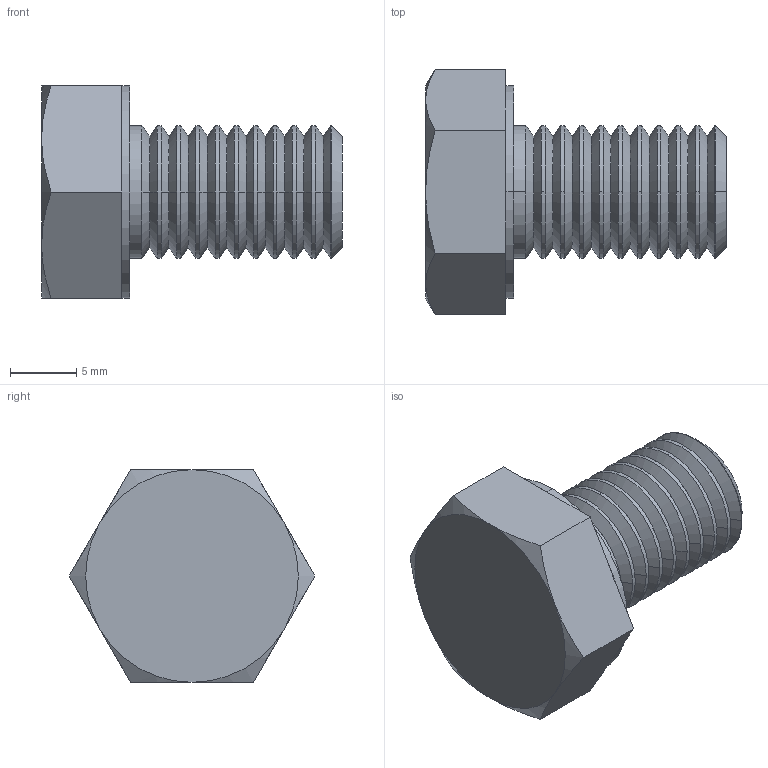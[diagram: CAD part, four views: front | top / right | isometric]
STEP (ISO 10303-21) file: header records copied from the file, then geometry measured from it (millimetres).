
FILE_DESCRIPTION (( 'STEP AP203' ), '1' );
FILE_NAME ('LED-10W-6R-HT-111 Step.STEP', '2013-10-24T16:17:22', ( 'Rob' ), ( '' ), 'SwSTEP 2.0', 'SolidWorks 2013', '' );
FILE_SCHEMA (( 'CONFIG_CONTROL_DESIGN' ));
Length unit declared in the file: millimetre
Products named in the file (1): LED-10W-6R-HT-111 Step
Bounding box: 22.63 x 18.48 x 16 mm (x, y, z)
Volume: 2557 mm3; surface area: 1502.2 mm2
Topology: 1 solids, 1 shells, 87 faces, 216 edges, 132 vertices
Faces by surface type: cone 48, cylinder 24, plane 15
Entity records: 2727 total; most frequent: CARTESIAN_POINT 508, DIRECTION 500, ORIENTED_EDGE 432, EDGE_CURVE 216, AXIS2_PLACEMENT_3D 208, VERTEX_POINT 132, CIRCLE 120, EDGE_LOOP 88
